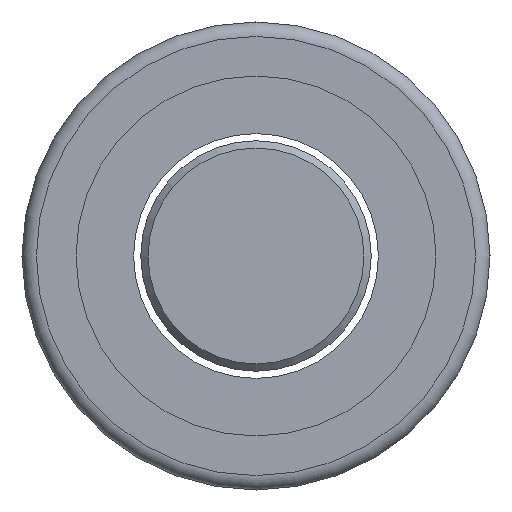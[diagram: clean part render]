
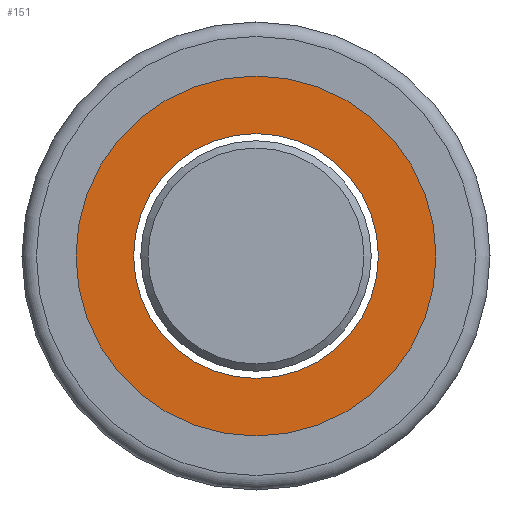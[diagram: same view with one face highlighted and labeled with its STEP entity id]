
A CAD part, left-side view. The second image highlights one B-rep face of the part: STEP entity #151.
In plain terms, the highlighted planar face has unit normal (-1, 0, 0).
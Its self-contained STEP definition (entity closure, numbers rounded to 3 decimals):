
#126=FACE_BOUND('',#200,.T.);
#151=ADVANCED_FACE('',(#126,#181),#171,.T.);
#171=PLANE('',#375);
#181=FACE_OUTER_BOUND('',#201,.T.);
#200=EDGE_LOOP('',(#239));
#201=EDGE_LOOP('',(#240));
#239=ORIENTED_EDGE('',*,*,#317,.T.);
#240=ORIENTED_EDGE('',*,*,#318,.F.);
#293=VERTEX_POINT('',#507);
#294=VERTEX_POINT('',#509);
#317=EDGE_CURVE('',#293,#293,#346,.T.);
#318=EDGE_CURVE('',#294,#294,#347,.T.);
#346=CIRCLE('',#373,8.5);
#347=CIRCLE('',#374,13.);
#373=AXIS2_PLACEMENT_3D('',#506,#426,#427);
#374=AXIS2_PLACEMENT_3D('',#508,#428,#429);
#375=AXIS2_PLACEMENT_3D('',#510,#430,#431);
#426=DIRECTION('',(1.,0.,0.));
#427=DIRECTION('',(0.,0.,-1.));
#428=DIRECTION('',(1.,0.,0.));
#429=DIRECTION('',(0.,0.,-1.));
#430=DIRECTION('',(-1.,0.,0.));
#431=DIRECTION('',(0.,0.,1.));
#506=CARTESIAN_POINT('',(-54.,0.,0.));
#507=CARTESIAN_POINT('',(-54.,0.,-8.5));
#508=CARTESIAN_POINT('',(-54.,0.,0.));
#509=CARTESIAN_POINT('',(-54.,0.,-13.));
#510=CARTESIAN_POINT('',(-54.,10.75,0.));
